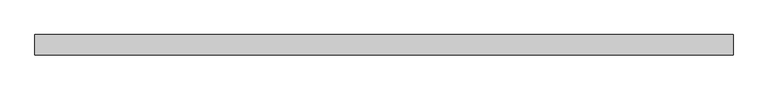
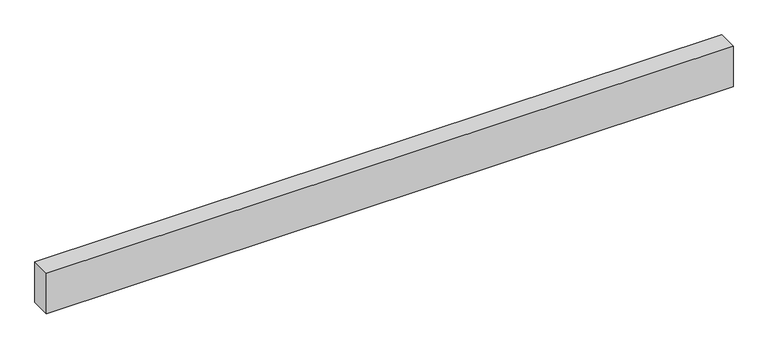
"""IFC4 building model written with IfcOpenShell, lengths in millimetres: proxy geometry."""

from ifc_helpers import new_model, si_unit, frame, origin, place, context, project, spatial, polyline, outline, extrude, source, transform, mapped, element, save


def structural_framing_79372c1d(model_context):
    return source(origin(), model_context, "Body", "SweptSolid", [
        extrude(outline(polyline([(-2412.8, -70.0), (-2412.8, 70.0), (2412.8, 70.0), (2412.8, -70.0), (-2412.8, -70.0)])), frame((0.0, 0.0, -300.0), z_axis=(0.0, 0.0, 1.0), x_axis=(1.0, 0.0, 0.0)), (0.0, 0.0, 1.0), 300.0),
    ])


if __name__ == "__main__":
    model = new_model("IFC4")
    model_context = context("Model", 3, world=origin())
    ifc_project = project(units=[si_unit("LENGTHUNIT", "METRE", prefix="MILLI")], contexts=[model_context])
    site = spatial("IfcSite", under=ifc_project)
    building = spatial("IfcBuilding", under=site)
    placement = place(None, origin())
    structural_framing_shape = structural_framing_79372c1d(model_context)
    element("IfcBuildingElementProxy", 1, Name="Structural Framing", at=placement, inside=building, context=model_context, shape_type="MappedRepresentation", body=[
        mapped(structural_framing_shape, transform((0.0, 0.0, 0.0), x_axis=(1.0, 0.0, 0.0), y_axis=(0.0, 1.0, 0.0), z_axis=(0.0, 0.0, 1.0))),
    ])
    save(model, "model.ifc")
